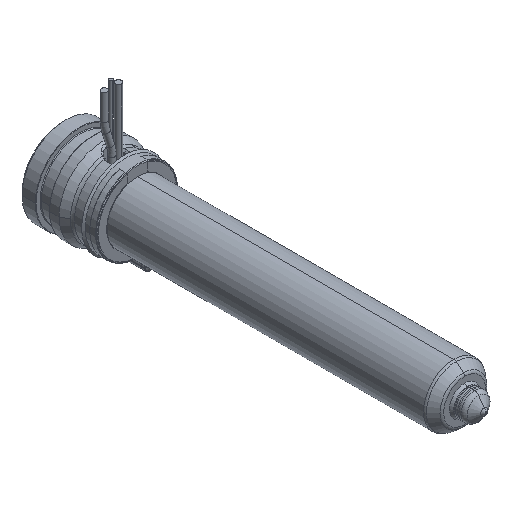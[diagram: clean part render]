
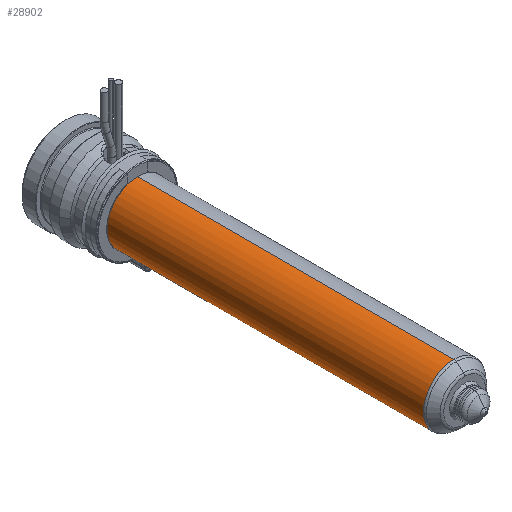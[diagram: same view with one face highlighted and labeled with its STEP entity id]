
A CAD part, isometric view. The second image highlights one B-rep face of the part: STEP entity #28902.
In plain terms, the highlighted cylindrical face has radius 9 mm (diameter 18 mm), a partial arc.
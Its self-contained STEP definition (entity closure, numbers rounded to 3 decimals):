
#28355=CARTESIAN_POINT('',(0.,-115.836,0.));
#28356=DIRECTION('',(0.,-1.,0.));
#28357=DIRECTION('',(0.,0.,1.));
#28358=AXIS2_PLACEMENT_3D('',#28355,#28356,#28357);
#28363=CARTESIAN_POINT('',(0.,-22.,0.));
#28364=DIRECTION('',(0.,-1.,0.));
#28365=DIRECTION('',(0.,0.,1.));
#28366=AXIS2_PLACEMENT_3D('',#28363,#28364,#28365);
#28371=DIRECTION('',(0.,-1.,0.));
#28372=VECTOR('',#28371,93.836);
#28373=CARTESIAN_POINT('',(0.,-22.,9.));
#28374=LINE('',#28373,#28372);
#28386=DIRECTION('',(0.,-1.,0.));
#28387=VECTOR('',#28386,93.836);
#28388=CARTESIAN_POINT('',(0.,-22.,-9.));
#28389=LINE('',#28388,#28387);
#28583=CARTESIAN_POINT('',(0.,-22.,9.));
#28584=CARTESIAN_POINT('',(0.,-115.836,9.));
#28585=VERTEX_POINT('',#28583);
#28586=VERTEX_POINT('',#28584);
#28605=CARTESIAN_POINT('',(0.,-22.,-9.));
#28606=CARTESIAN_POINT('',(0.,-115.836,-9.));
#28607=VERTEX_POINT('',#28605);
#28608=VERTEX_POINT('',#28606);
#28888=CARTESIAN_POINT('',(0.,-12.625,0.));
#28889=DIRECTION('',(0.,-1.,0.));
#28890=DIRECTION('',(0.,0.,1.));
#28891=AXIS2_PLACEMENT_3D('',#28888,#28889,#28890);
#28892=CYLINDRICAL_SURFACE('',#28891,9.);
#28894=ORIENTED_EDGE('',*,*,#28893,.T.);
#28895=ORIENTED_EDGE('',*,*,#28883,.T.);
#28897=ORIENTED_EDGE('',*,*,#28896,.F.);
#28899=ORIENTED_EDGE('',*,*,#28898,.F.);
#28900=EDGE_LOOP('',(#28894,#28895,#28897,#28899));
#28901=FACE_OUTER_BOUND('',#28900,.F.);
#28902=ADVANCED_FACE('',(#28901),#28892,.T.);
#28359=CIRCLE('',#28358,9.);
#28367=CIRCLE('',#28366,9.);
#28883=EDGE_CURVE('',#28586,#28608,#28359,.T.);
#28893=EDGE_CURVE('',#28585,#28586,#28374,.T.);
#28896=EDGE_CURVE('',#28607,#28608,#28389,.T.);
#28898=EDGE_CURVE('',#28585,#28607,#28367,.T.);
